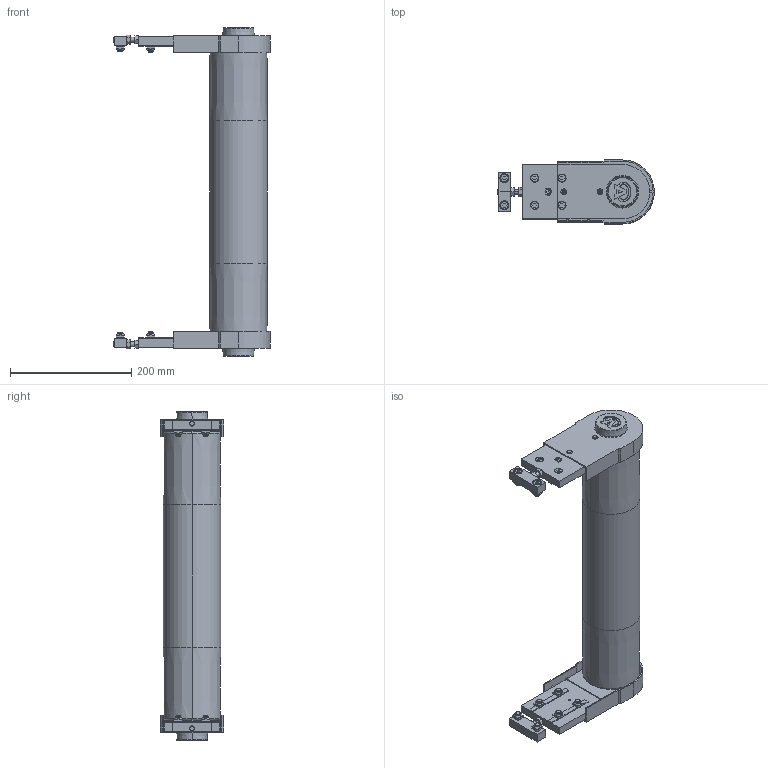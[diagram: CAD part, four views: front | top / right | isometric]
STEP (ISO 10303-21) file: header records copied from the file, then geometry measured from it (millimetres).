
FILE_DESCRIPTION (( 'STEP AP203' ), '1' );
FILE_NAME ('084.095.KIC.450.STEP', '2019-07-12T10:00:39', ( 'Localadmin' ), ( 'Microsoft' ), 'SwSTEP 2.0', 'SolidWorks 2018', '' );
FILE_SCHEMA (( 'CONFIG_CONTROL_DESIGN' ));
Length unit declared in the file: millimetre
Products named in the file (11): 084.810.003; 084.802.019_084.802.019; 084.803.003; 084.803.005-1; 084.301.000 VITI ALUSIC_084.301.003; Circlip DIN 471 - 30 x 1.5_Circlip DIN 471 - 30 x 1.5; 084.302.000 DADI ALUSIC 13x13_084.302.004; 084.095.KIC.450; 084.816.113_084.816.107<A macchina>; 084.812.003; 084.808.006_084.808.002
Assembly tree (39 placements, depth 2):
  084.095.KIC.450
    084.301.000 VITI ALUSIC_084.301.003  x12
    084.302.000 DADI ALUSIC 13x13_084.302.004  x12
    084.816.113_084.816.107<A macchina>
    084.812.003  x2
    084.808.006_084.808.002  x2
    084.810.003  x2
    084.802.019_084.802.019  x2
    084.803.003  x2
    084.803.005-1  x2
    Circlip DIN 471 - 30 x 1.5_Circlip DIN 471 - 30 x 1.5  x2
Bounding box: 258.5 x 105 x 543 mm (x, y, z)
Volume: 1688452.4 mm3; surface area: 788340.2 mm2
Topology: 45 solids, 47 shells, 1442 faces, 3742 edges, 2452 vertices
Faces by surface type: plane 871, cylinder 331, torus 100, cone 84, bspline 48, sphere 8
Entity records: 21076 total; most frequent: CARTESIAN_POINT 3819, DIRECTION 3211, ORIENTED_EDGE 3174, EDGE_CURVE 1587, AXIS2_PLACEMENT_3D 1081, VECTOR 1049, LINE 1049, VERTEX_POINT 1045
